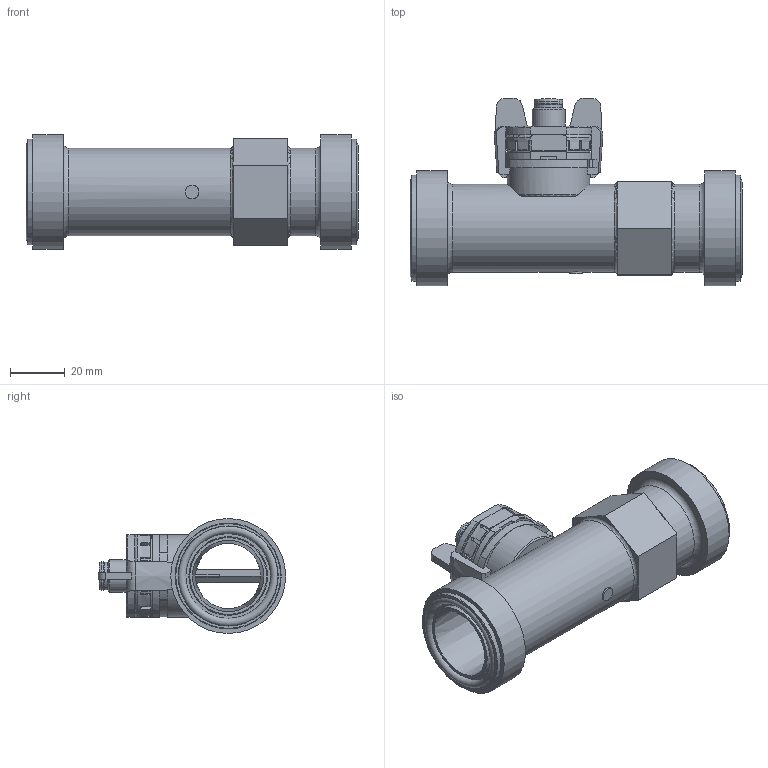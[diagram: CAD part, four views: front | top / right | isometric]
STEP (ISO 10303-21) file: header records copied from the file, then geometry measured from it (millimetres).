
FILE_DESCRIPTION( ( 'STEP AP203' ), ' ' );
FILE_NAME( 'p:/temp/worker_70/3028_2240/app_58_02015090811370029445863192d056f_000000_00_00_000000/format_3/SV8050.stp', '2015-09-08T09:37:04', ( '' ), ( '' ), ' ', 'PARTsolutions', ' ' );
FILE_SCHEMA( ( 'CONFIG_CONTROL_DESIGN' ) );
Length unit declared in the file: millimetre
Products named in the file (1): _SV8050
Bounding box: 121.05 x 68.31 x 41.91 mm (x, y, z)
Volume: 76200.4 mm3; surface area: 33082.2 mm2
Topology: 1 solids, 1 shells, 267 faces, 736 edges, 479 vertices
Faces by surface type: plane 145, cylinder 61, torus 38, cone 23
Full cylindrical faces by diameter (mm): 5 x1, 10 x1, 10.4 x1, 12 x1, 15.2 x1, 15.4 x1, 28.2 x2, 29.98 x1, 32 x2, 38.6 x2, 41.91 x2
Entity records: 9108 total; most frequent: CARTESIAN_POINT 2490, ORIENTED_EDGE 1380, DIRECTION 1333, EDGE_CURVE 690, AXIS2_PLACEMENT_3D 506, VERTEX_POINT 472, EDGE_LOOP 322, LINE 321
